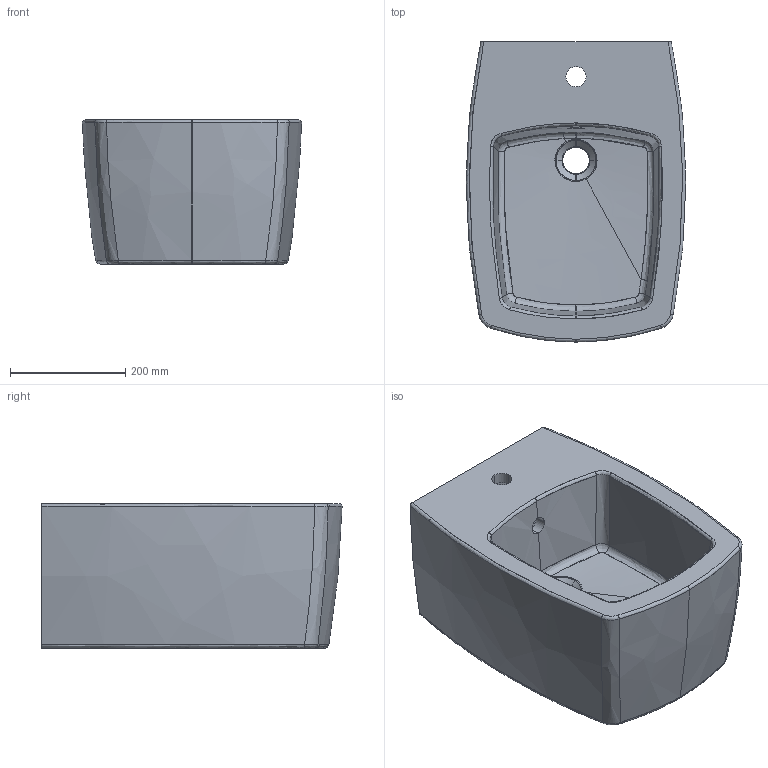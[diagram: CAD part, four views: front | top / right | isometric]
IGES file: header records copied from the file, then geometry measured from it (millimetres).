
Start section: START RECORD GO HERE.
Global section: file name: 8970_3D.igs; native system: DASSAULT SYSTEMES CATIA V5 R19 - www.3ds.com; preprocessor: CATIA Version 5 Release 19 SP 5 ; author: Luca; organization: DESKTOP-V7SON24; date: 20201203.100737; units: millimetre
Bounding box: 379.78 x 519.89 x 250 mm (x, y, z)
Surface area: 818214.4 mm2 (no closed solid volume)
Topology: 0 solids, 0 shells, 86 faces, 412 edges, 412 vertices
Faces by surface type: bspline 68, revolution 13, plane 5
